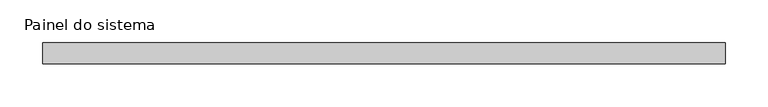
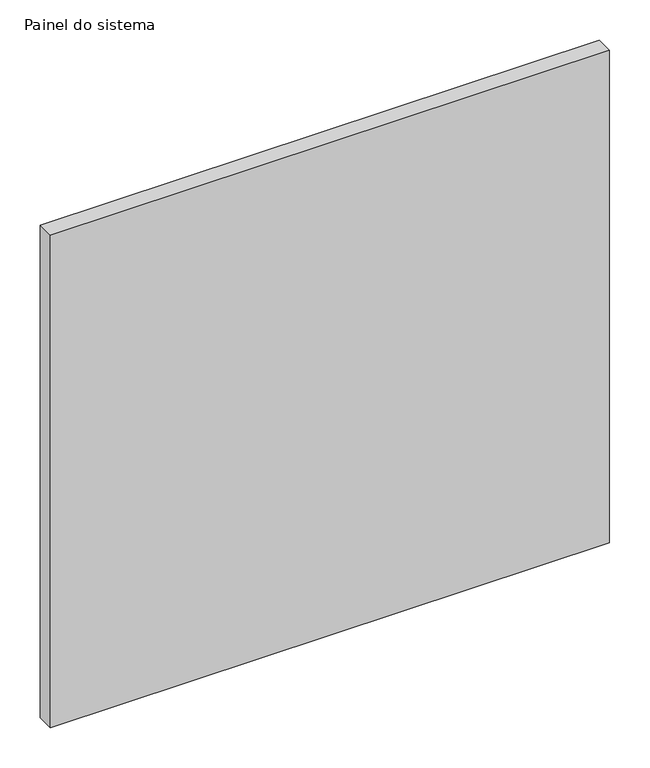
"""IFC4 building model written with IfcOpenShell, lengths in millimetres: plate geometry, Painel do sistema : Envidraçado."""

from ifc_helpers import new_model, si_unit, origin, origin_with_axes, place, context, project, spatial, polyline, outline, extrude, source, transform, mapped, element, save


def painel_do_sistema_8f823d34(model_context):
    return source(origin(), model_context, "Body", "SweptSolid", [
        extrude(outline(polyline([(400.0, 24.5), (-400.0, 24.5), (-400.0, 49.5), (400.0, 49.5), (400.0, 24.5)])), origin_with_axes(), (0.0, 0.0, 1.0), 745.0),
    ])


if __name__ == "__main__":
    model = new_model("IFC4")
    model_context = context("Model", 3, world=origin())
    ifc_project = project(units=[si_unit("LENGTHUNIT", "METRE", prefix="MILLI")], contexts=[model_context])
    site = spatial("IfcSite", under=ifc_project)
    building = spatial("IfcBuilding", under=site)
    placement = place(None, origin())
    painel_do_sistema_shape = painel_do_sistema_8f823d34(model_context)
    element("IfcPlate", 1, ObjectType="Painel do sistema : Envidraçado", at=placement, inside=building, context=model_context, shape_type="MappedRepresentation", body=[
        mapped(painel_do_sistema_shape, transform((0.0, 0.0, 0.0), x_axis=(1.0, 0.0, 0.0), y_axis=(0.0, 1.0, 0.0), z_axis=(0.0, 0.0, 1.0))),
    ])
    save(model, "model.ifc")
